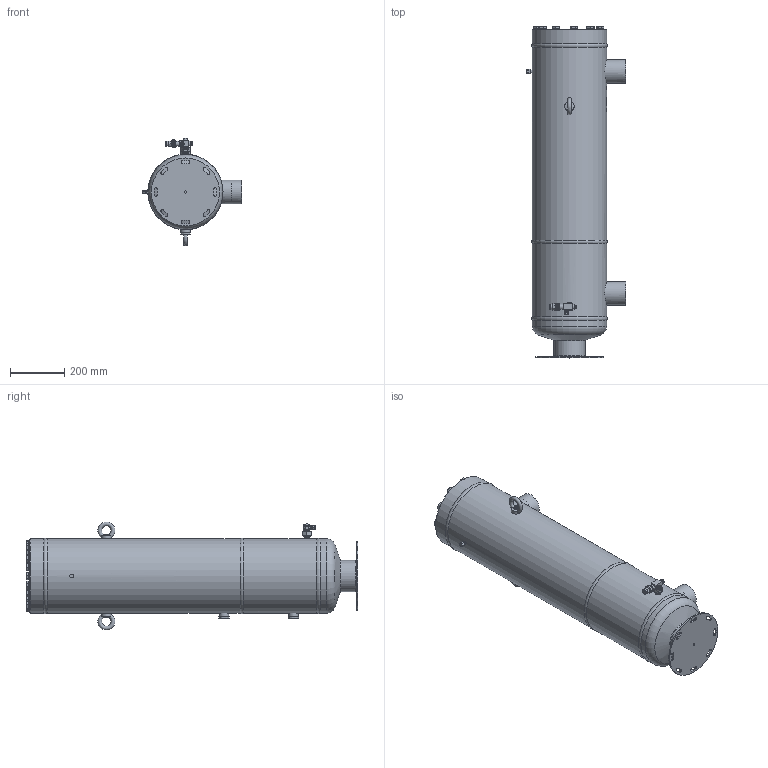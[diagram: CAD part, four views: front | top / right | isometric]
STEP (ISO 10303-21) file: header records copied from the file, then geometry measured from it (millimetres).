
FILE_DESCRIPTION(/* description */ (''),/* implementation_level */ '2;1');
FILE_NAME(/* name */ 'P:\OSR\BOS2-R-80F\BOS2-R-80F.stp',/* time_stamp */ '2019-08-21T10:47:04+02:00',/* author */ ('neufeld'),/* organization */ (''),/* preprocessor_version */ 'ST-DEVELOPER v17',/* originating_system */ 'Autodesk Inventor 2019',/* authorisation */ '');
FILE_SCHEMA (('AUTOMOTIVE_DESIGN { 1 0 10303 214 3 1 1 }'));
Length unit declared in the file: millimetre
Products named in the file (3): BOS2-R-80F_AG-Kunde; BOS2-R-80F_AG-Kunde_1; RAV-1"-10-CD
Assembly tree (2 placements, depth 2):
  BOS2-R-80F_AG-Kunde
    BOS2-R-80F_AG-Kunde_1
    RAV-1"-10-CD
Bounding box: 365 x 1219.32 x 396.71 mm (x, y, z)
Volume: 67557055.7 mm3; surface area: 1296876.1 mm2
Topology: 4 solids, 7 shells, 2036 faces, 5525 edges, 3663 vertices
Faces by surface type: plane 768, bspline 753, cylinder 356, cone 145, torus 13, sphere 1
Full cylindrical faces by diameter (mm): 4 x1, 6.5 x1, 8.376 x1, 8.9 x1, 9 x1, 9.4 x1, 10.1 x1, 10.2 x1, 10.72 x1, 11 x1, 12 x1, 13 x1, 13.3 x1, 13.5 x1, 13.835 x2, 14 x1, 14.2 x1, 14.917 x11, 15.75 x1, 15.87 x1, 16.7 x1, 16.8 x1, 17.3 x1, 18 x1, 18.3 x1, 19 x1, 19.05 x1, 19.9 x1, 20 x3, 22 x11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
Entity records: 250166 total; most frequent: CARTESIAN_POINT 203528, ORIENTED_EDGE 11086, DIRECTION 7061, EDGE_CURVE 5543, VERTEX_POINT 3671, AXIS2_PLACEMENT_3D 2418, EDGE_LOOP 2248, LINE 2225
